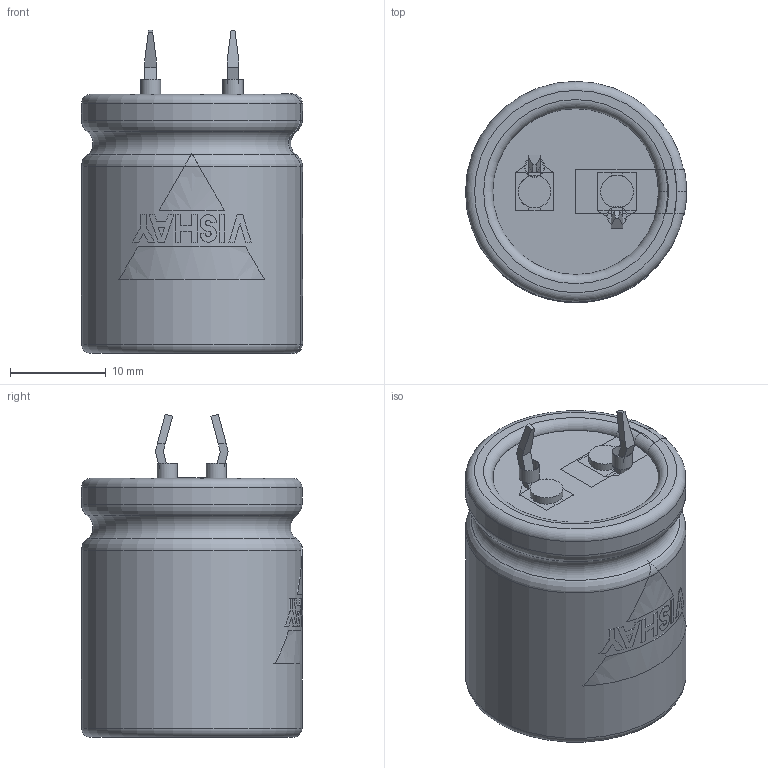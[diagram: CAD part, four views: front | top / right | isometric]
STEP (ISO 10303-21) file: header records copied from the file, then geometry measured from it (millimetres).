
FILE_DESCRIPTION(('FreeCAD Model'),'2;1');
FILE_NAME( 'C:/Users/Gebruiker/Documents/FreeCAD/SnapIn_22x25_2pin_5.8.step', '2020-11-12T19:46:53',('Author'),(''), 'Open CASCADE STEP processor 6.8','FreeCAD','Unknown');
FILE_SCHEMA(('AUTOMOTIVE_DESIGN_CC2 { 1 2 10303 214 -1 1 5 4 }'));
Length unit declared in the file: millimetre
Products named in the file (9): ASSEMBLY; TerminalMin; TerminalPlus; PCBHoles; Disc; BottomInsulation; Can3D; InkMinusBar; InkLogo
Assembly tree (8 placements, depth 2):
  ASSEMBLY
    TerminalMin
    TerminalPlus
    PCBHoles
    Disc
    BottomInsulation
    Can3D
    InkMinusBar
    InkLogo
Bounding box: 23.05 x 23.05 x 33.75 mm (x, y, z)
Volume: 12700.3 mm3; surface area: 6991.8 mm2
Topology: 16 solids, 16 shells, 190 faces, 463 edges, 303 vertices
Faces by surface type: plane 141, cylinder 29, torus 20
Full cylindrical faces by diameter (mm): 2 x2, 2.1 x2, 3.4 x2, 17.3 x1, 18.4 x2, 23 x2
Entity records: 19939 total; most frequent: CARTESIAN_POINT 9531, DIRECTION 1628, ORIENTED_EDGE 926, PCURVE 926, DEFINITIONAL_REPRESENTATION 926, LINE 899, VECTOR 899, EDGE_CURVE 463
